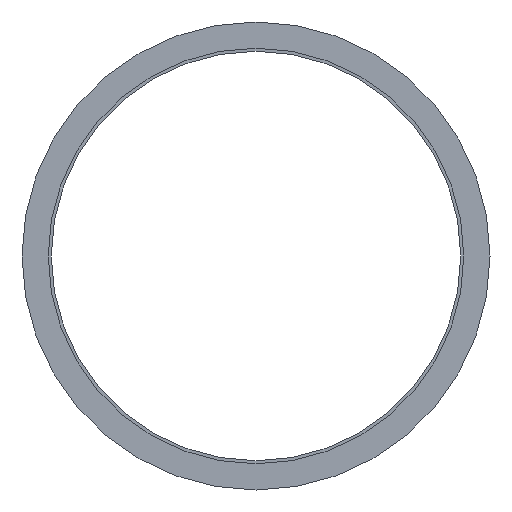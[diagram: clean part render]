
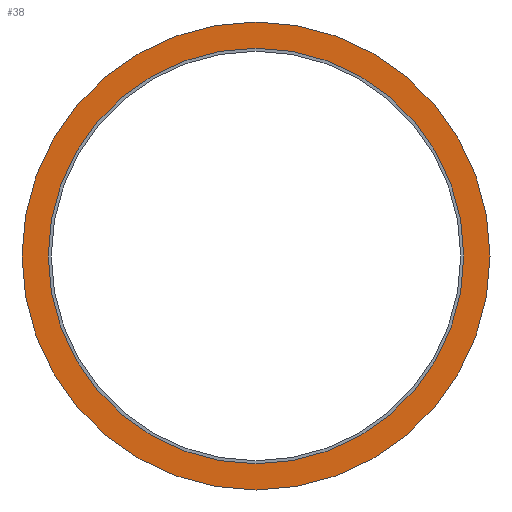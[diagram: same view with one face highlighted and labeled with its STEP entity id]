
A CAD part, front view. The second image highlights one B-rep face of the part: STEP entity #38.
In plain terms, the highlighted planar face has unit normal (0, -1, 0).
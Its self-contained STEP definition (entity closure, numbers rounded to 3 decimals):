
#6 = DIRECTION ( 'NONE',  ( 0., 1., 0. ) ) ;
#35 = CARTESIAN_POINT ( 'NONE',  ( 0., 0., -106.55 ) ) ;
#38 = ADVANCED_FACE ( 'NONE', ( #602, #431 ), #56, .F. ) ;
#56 = PLANE ( 'NONE',  #395 ) ;
#63 = AXIS2_PLACEMENT_3D ( 'NONE', #170, #313, #589 ) ;
#86 = DIRECTION ( 'NONE',  ( 0., -1., 0. ) ) ;
#119 = VERTEX_POINT ( 'NONE', #413 ) ;
#126 = CIRCLE ( 'NONE', #261, 120. ) ;
#139 = DIRECTION ( 'NONE',  ( 0., 0., -1. ) ) ;
#156 = DIRECTION ( 'NONE',  ( 0., 0., 1. ) ) ;
#170 = CARTESIAN_POINT ( 'NONE',  ( 0., 0., 0. ) ) ;
#171 = CIRCLE ( 'NONE', #331, 120. ) ;
#187 = CIRCLE ( 'NONE', #513, 106.55 ) ;
#202 = VERTEX_POINT ( 'NONE', #529 ) ;
#228 = DIRECTION ( 'NONE',  ( 0., 0., -1. ) ) ;
#245 = CARTESIAN_POINT ( 'NONE',  ( 0., 0., 120. ) ) ;
#246 = DIRECTION ( 'NONE',  ( 0., 0., -1. ) ) ;
#259 = ORIENTED_EDGE ( 'NONE', *, *, #345, .F. ) ;
#261 = AXIS2_PLACEMENT_3D ( 'NONE', #324, #466, #246 ) ;
#277 = EDGE_LOOP ( 'NONE', ( #563, #540 ) ) ;
#300 = CIRCLE ( 'NONE', #63, 106.55 ) ;
#301 = VERTEX_POINT ( 'NONE', #355 ) ;
#313 = DIRECTION ( 'NONE',  ( 0., -1., 0. ) ) ;
#324 = CARTESIAN_POINT ( 'NONE',  ( 0., 0., 0. ) ) ;
#331 = AXIS2_PLACEMENT_3D ( 'NONE', #600, #401, #139 ) ;
#345 = EDGE_CURVE ( 'NONE', #202, #518, #300, .T. ) ;
#355 = CARTESIAN_POINT ( 'NONE',  ( 0., 0., -120. ) ) ;
#395 = AXIS2_PLACEMENT_3D ( 'NONE', #245, #6, #156 ) ;
#399 = ORIENTED_EDGE ( 'NONE', *, *, #508, .F. ) ;
#401 = DIRECTION ( 'NONE',  ( 0., -1., 0. ) ) ;
#413 = CARTESIAN_POINT ( 'NONE',  ( 0., 0., 120. ) ) ;
#417 = EDGE_LOOP ( 'NONE', ( #399, #259 ) ) ;
#431 = FACE_OUTER_BOUND ( 'NONE', #277, .T. ) ;
#452 = EDGE_CURVE ( 'NONE', #301, #119, #171, .T. ) ;
#466 = DIRECTION ( 'NONE',  ( 0., -1., 0. ) ) ;
#501 = CARTESIAN_POINT ( 'NONE',  ( 0., 0., 0. ) ) ;
#508 = EDGE_CURVE ( 'NONE', #518, #202, #187, .T. ) ;
#513 = AXIS2_PLACEMENT_3D ( 'NONE', #501, #86, #228 ) ;
#518 = VERTEX_POINT ( 'NONE', #35 ) ;
#529 = CARTESIAN_POINT ( 'NONE',  ( 0., 0., 106.55 ) ) ;
#540 = ORIENTED_EDGE ( 'NONE', *, *, #552, .T. ) ;
#552 = EDGE_CURVE ( 'NONE', #119, #301, #126, .T. ) ;
#563 = ORIENTED_EDGE ( 'NONE', *, *, #452, .T. ) ;
#589 = DIRECTION ( 'NONE',  ( 0., 0., -1. ) ) ;
#600 = CARTESIAN_POINT ( 'NONE',  ( 0., 0., 0. ) ) ;
#602 = FACE_BOUND ( 'NONE', #417, .T. ) ;
